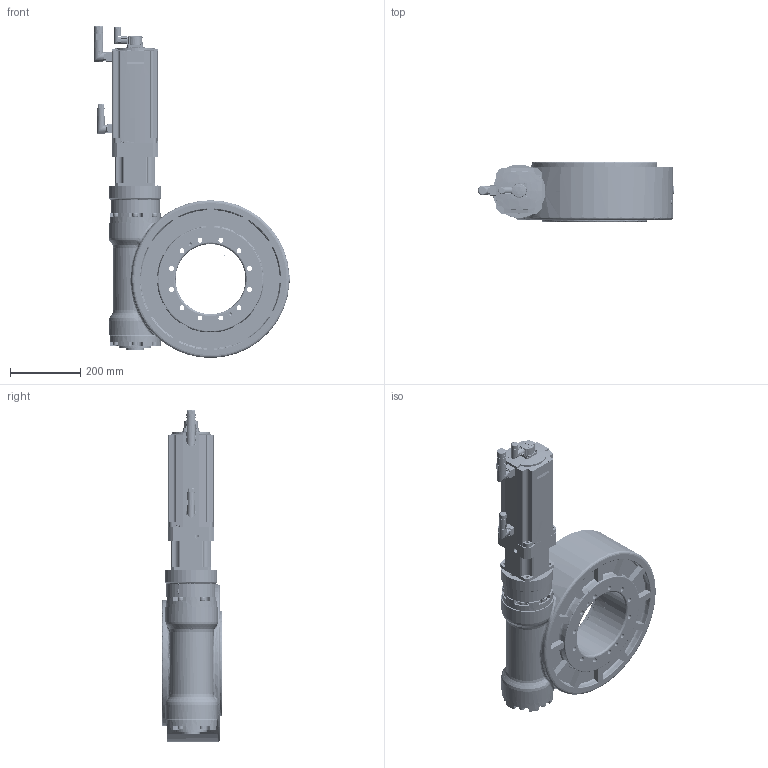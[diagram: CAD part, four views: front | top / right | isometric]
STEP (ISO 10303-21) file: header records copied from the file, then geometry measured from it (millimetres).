
FILE_DESCRIPTION (( 'STEP AP203' ), '1' );
FILE_NAME ('PT-HT200.STEP', '2025-09-10T02:40:01', ( '' ), ( '' ), 'SwSTEP 2.0', 'SolidWorks 2023', '' );
FILE_SCHEMA (( 'CONFIG_CONTROL_DESIGN' ));
Length unit declared in the file: millimetre
Products named in the file (1): PT-HT200
Bounding box: 560.36 x 170 x 947 mm (x, y, z)
Volume: 28893353 mm3; surface area: 2797721.5 mm2
Topology: 119 solids, 119 shells, 4593 faces, 13054 edges, 8434 vertices
Faces by surface type: plane 1852, cylinder 1680, bspline 830, cone 231
Entity records: 209323 total; most frequent: CARTESIAN_POINT 96455, ORIENTED_EDGE 25248, DIRECTION 21790, EDGE_CURVE 12624, VERTEX_POINT 8434, AXIS2_PLACEMENT_3D 8209, LINE 5372, VECTOR 5372
